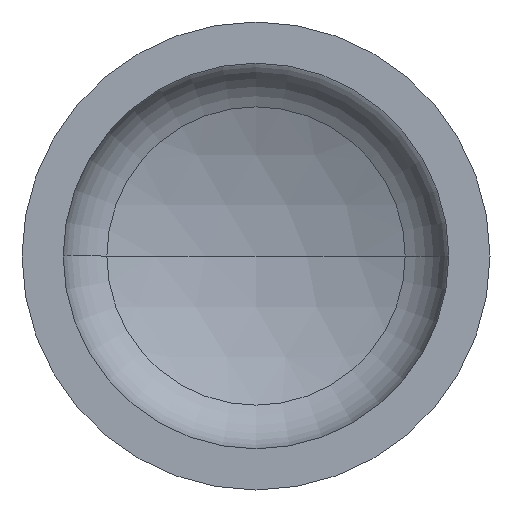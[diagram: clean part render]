
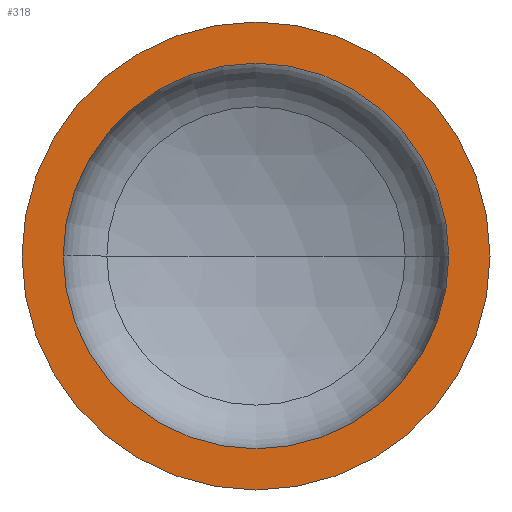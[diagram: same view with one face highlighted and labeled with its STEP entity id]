
A CAD part, front view. The second image highlights one B-rep face of the part: STEP entity #318.
In plain terms, the highlighted planar face has unit normal (0, -1, 0).
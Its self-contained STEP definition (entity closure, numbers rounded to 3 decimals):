
#5 = AXIS2_PLACEMENT_3D ( 'NONE', #45, #238, #399 ) ;
#9 = AXIS2_PLACEMENT_3D ( 'NONE', #257, #372, #376 ) ;
#27 = EDGE_LOOP ( 'NONE', ( #119, #159 ) ) ;
#45 = CARTESIAN_POINT ( 'NONE',  ( -500., 0., 0. ) ) ;
#55 = AXIS2_PLACEMENT_3D ( 'NONE', #335, #331, #330 ) ;
#57 = AXIS2_PLACEMENT_3D ( 'NONE', #309, #308, #182 ) ;
#69 = VERTEX_POINT ( 'NONE', #282 ) ;
#73 = ORIENTED_EDGE ( 'NONE', *, *, #332, .F. ) ;
#74 = EDGE_CURVE ( 'NONE', #69, #222, #214, .T. ) ;
#75 = EDGE_CURVE ( 'NONE', #118, #146, #390, .T. ) ;
#94 = EDGE_LOOP ( 'NONE', ( #278, #73 ) ) ;
#118 = VERTEX_POINT ( 'NONE', #292 ) ;
#119 = ORIENTED_EDGE ( 'NONE', *, *, #364, .T. ) ;
#146 = VERTEX_POINT ( 'NONE', #377 ) ;
#159 = ORIENTED_EDGE ( 'NONE', *, *, #74, .T. ) ;
#182 = DIRECTION ( 'NONE',  ( 1., 0., 0. ) ) ;
#214 = CIRCLE ( 'NONE', #57, 500. ) ;
#222 = VERTEX_POINT ( 'NONE', #252 ) ;
#226 = DIRECTION ( 'NONE',  ( 0., -1., 0. ) ) ;
#238 = DIRECTION ( 'NONE',  ( 0., 1., 0. ) ) ;
#252 = CARTESIAN_POINT ( 'NONE',  ( 500., 0., 0. ) ) ;
#257 = CARTESIAN_POINT ( 'NONE',  ( 0., 0., 0. ) ) ;
#260 = PLANE ( 'NONE',  #5 ) ;
#264 = AXIS2_PLACEMENT_3D ( 'NONE', #361, #226, #384 ) ;
#273 = CIRCLE ( 'NONE', #264, 500. ) ;
#278 = ORIENTED_EDGE ( 'NONE', *, *, #75, .F. ) ;
#280 = CIRCLE ( 'NONE', #9, 412. ) ;
#282 = CARTESIAN_POINT ( 'NONE',  ( -500., 0., 0. ) ) ;
#292 = CARTESIAN_POINT ( 'NONE',  ( 412., 0., 0. ) ) ;
#308 = DIRECTION ( 'NONE',  ( 0., -1., 0. ) ) ;
#309 = CARTESIAN_POINT ( 'NONE',  ( 0., 0., 0. ) ) ;
#318 = ADVANCED_FACE ( 'NONE', ( #348, #411 ), #260, .F. ) ;
#330 = DIRECTION ( 'NONE',  ( 1., 0., 0. ) ) ;
#331 = DIRECTION ( 'NONE',  ( 0., -1., 0. ) ) ;
#332 = EDGE_CURVE ( 'NONE', #146, #118, #280, .T. ) ;
#335 = CARTESIAN_POINT ( 'NONE',  ( 0., 0., 0. ) ) ;
#348 = FACE_BOUND ( 'NONE', #94, .T. ) ;
#361 = CARTESIAN_POINT ( 'NONE',  ( 0., 0., 0. ) ) ;
#364 = EDGE_CURVE ( 'NONE', #222, #69, #273, .T. ) ;
#372 = DIRECTION ( 'NONE',  ( 0., -1., 0. ) ) ;
#376 = DIRECTION ( 'NONE',  ( 1., 0., 0. ) ) ;
#377 = CARTESIAN_POINT ( 'NONE',  ( -412., 0., 0. ) ) ;
#384 = DIRECTION ( 'NONE',  ( 1., 0., 0. ) ) ;
#390 = CIRCLE ( 'NONE', #55, 412. ) ;
#399 = DIRECTION ( 'NONE',  ( -1., 0., 0. ) ) ;
#411 = FACE_OUTER_BOUND ( 'NONE', #27, .T. ) ;
